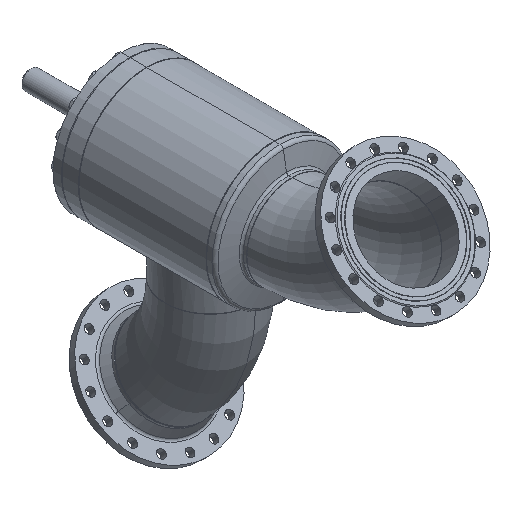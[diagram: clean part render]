
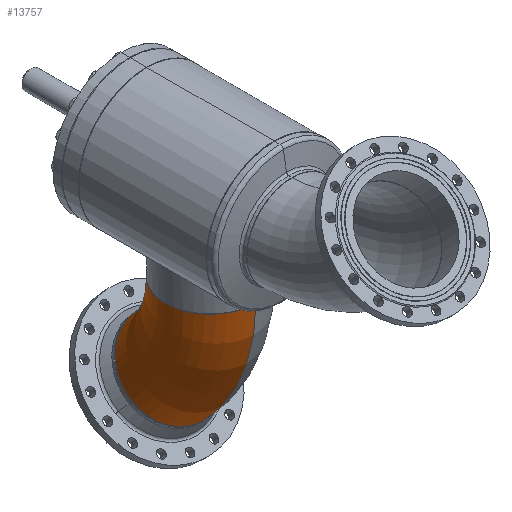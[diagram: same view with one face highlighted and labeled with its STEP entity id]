
A CAD part, isometric view. The second image highlights one B-rep face of the part: STEP entity #13757.
In plain terms, the highlighted toroidal (fillet/blend) face has major radius 610 mm and minor radius 203.2 mm.
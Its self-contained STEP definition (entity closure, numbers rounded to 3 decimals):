
#2437 = EDGE_CURVE ( 'NONE', #5617, #3354, #10283, .T. ) ;
#2821 = ORIENTED_EDGE ( 'NONE', *, *, #2437, .F. ) ;
#3354 = VERTEX_POINT ( 'NONE', #11995 ) ;
#3578 = EDGE_CURVE ( 'NONE', #4476, #3354, #12329, .T. ) ;
#3959 = ORIENTED_EDGE ( 'NONE', *, *, #3578, .T. ) ;
#4476 = VERTEX_POINT ( 'NONE', #13110 ) ;
#4711 = EDGE_CURVE ( 'NONE', #5838, #4476, #13267, .T. ) ;
#5091 = ORIENTED_EDGE ( 'NONE', *, *, #4711, .T. ) ;
#5617 = VERTEX_POINT ( 'NONE', #13710 ) ;
#5838 = VERTEX_POINT ( 'NONE', #13761 ) ;
#6060 = EDGE_CURVE ( 'NONE', #5838, #5617, #13982, .T. ) ;
#6397 = ORIENTED_EDGE ( 'NONE', *, *, #6060, .F. ) ;
#10283 = CIRCLE ( 'NONE', #10284, 406.8 ) ;
#10284 = AXIS2_PLACEMENT_3D ( 'NONE', #10285, #10286, #10289 ) ;
#10285 = CARTESIAN_POINT ( 'NONE',  ( 0., -610., 0. ) ) ;
#10286 = DIRECTION ( 'NONE',  ( 0., 0., 1. ) ) ;
#10289 = DIRECTION ( 'NONE',  ( 1., 0., 0. ) ) ;
#11995 = CARTESIAN_POINT ( 'NONE',  ( 0., -203.2, 0. ) ) ;
#12329 = CIRCLE ( 'NONE', #12330, 203.2 ) ;
#12330 = AXIS2_PLACEMENT_3D ( 'NONE', #12331, #12332, #12333 ) ;
#12331 = CARTESIAN_POINT ( 'NONE',  ( 0., 0., 0. ) ) ;
#12332 = DIRECTION ( 'NONE',  ( 1., 0., 0. ) ) ;
#12333 = DIRECTION ( 'NONE',  ( 0., 0., -1. ) ) ;
#12826 = FACE_OUTER_BOUND ( 'NONE', #13513, .T. ) ;
#12827 = TOROIDAL_SURFACE ( 'NONE', #12828, 610., 203.2 ) ;
#12828 = AXIS2_PLACEMENT_3D ( 'NONE', #12829, #12833, #12834 ) ;
#12829 = CARTESIAN_POINT ( 'NONE',  ( 0., -610., 0. ) ) ;
#12833 = DIRECTION ( 'NONE',  ( 0., 0., 1. ) ) ;
#12834 = DIRECTION ( 'NONE',  ( 1., 0., 0. ) ) ;
#13110 = CARTESIAN_POINT ( 'NONE',  ( 0., 203.2, 0. ) ) ;
#13267 = CIRCLE ( 'NONE', #13268, 813.2 ) ;
#13268 = AXIS2_PLACEMENT_3D ( 'NONE', #13269, #13270, #13271 ) ;
#13269 = CARTESIAN_POINT ( 'NONE',  ( 0., -610., 0. ) ) ;
#13270 = DIRECTION ( 'NONE',  ( 0., 0., 1. ) ) ;
#13271 = DIRECTION ( 'NONE',  ( 1., 0., 0. ) ) ;
#13513 = EDGE_LOOP ( 'NONE', ( #6397, #5091, #3959, #2821 ) ) ;
#13710 = CARTESIAN_POINT ( 'NONE',  ( 287.651, -322.349, 0. ) ) ;
#13757 = ADVANCED_FACE ( 'NONE', ( #12826 ), #12827, .T. ) ;
#13761 = CARTESIAN_POINT ( 'NONE',  ( 575.019, -34.981, 0. ) ) ;
#13982 = CIRCLE ( 'NONE', #13983, 203.2 ) ;
#13983 = AXIS2_PLACEMENT_3D ( 'NONE', #13984, #13985, #13986 ) ;
#13984 = CARTESIAN_POINT ( 'NONE',  ( 431.335, -178.665, 0. ) ) ;
#13985 = DIRECTION ( 'NONE',  ( 0.707, -0.707, 0. ) ) ;
#13986 = DIRECTION ( 'NONE',  ( 0., 0., -1. ) ) ;
